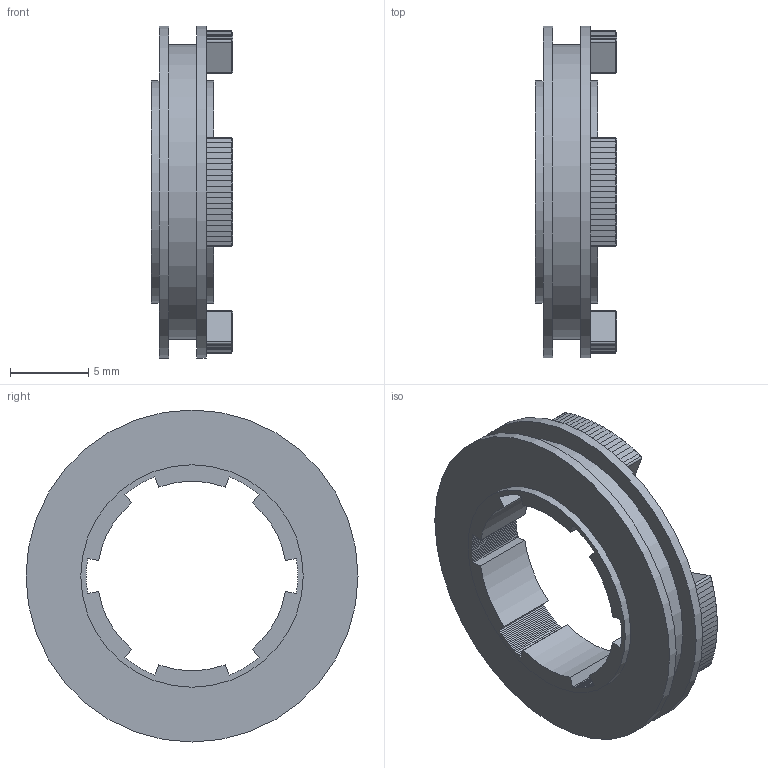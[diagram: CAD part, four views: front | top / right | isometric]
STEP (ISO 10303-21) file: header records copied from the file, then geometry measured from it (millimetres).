
FILE_DESCRIPTION(('Open CASCADE Model'),'2;1');
FILE_NAME('B3_R12_U_axis_single_sided_dog','2026-09-28T18:17:09',( 'Author'),('Open CASCADE'),'Open CASCADE STEP processor 7.9', 'build123d','Unknown');
FILE_SCHEMA(('AUTOMOTIVE_DESIGN { 1 0 10303 214 1 1 1 1 }'));
Length unit declared in the file: millimetre
Products named in the file (1): B3_R12_U_axis_single_sided_dog
Bounding box: 5.2 x 21.2 x 21.2 mm (x, y, z)
Volume: 685.5 mm3; surface area: 1143.7 mm2
Topology: 1 solids, 1 shells, 521 faces, 1349 edges, 838 vertices
Faces by surface type: plane 478, cylinder 27, cone 16
Full cylindrical faces by diameter (mm): 14.2 x2, 18.8 x1, 21.2 x2
Entity records: 31700 total; most frequent: CARTESIAN_POINT 6659, DIRECTION 3914, ORIENTED_EDGE 2698, PCURVE 2698, DEFINITIONAL_REPRESENTATION 2698, LINE 2677, VECTOR 2677, EDGE_CURVE 1349
